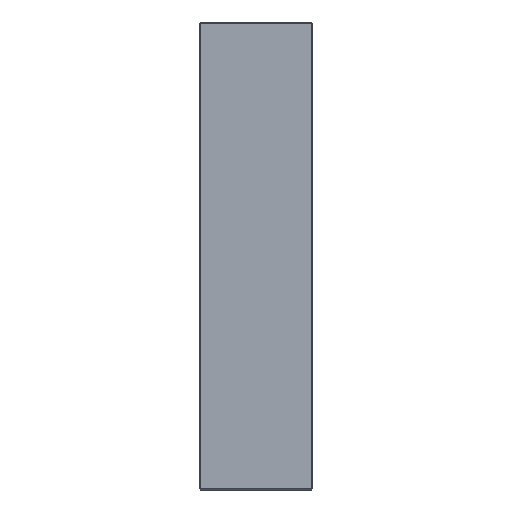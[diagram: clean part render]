
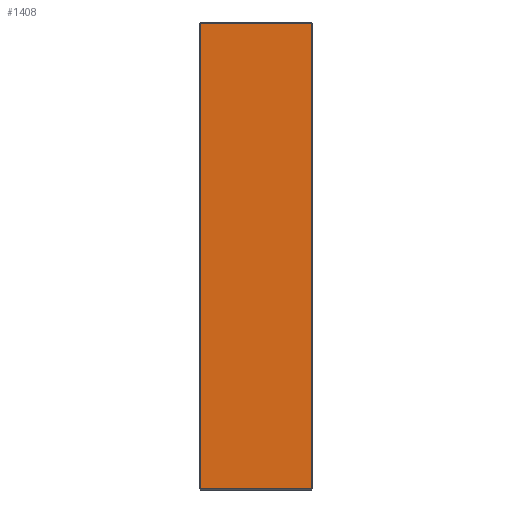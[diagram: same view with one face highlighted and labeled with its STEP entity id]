
A CAD part, left-side view. The second image highlights one B-rep face of the part: STEP entity #1408.
In plain terms, the highlighted planar face has unit normal (-1, 0, 0).
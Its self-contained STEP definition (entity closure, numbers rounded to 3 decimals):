
#28 = VERTEX_POINT ( 'NONE', #657 ) ;
#44 = DIRECTION ( 'NONE',  ( 1., 0., 0. ) ) ;
#54 = DIRECTION ( 'NONE',  ( 0., 0., -1. ) ) ;
#62 = VECTOR ( 'NONE', #1127, 1000. ) ;
#67 = ORIENTED_EDGE ( 'NONE', *, *, #849, .T. ) ;
#98 = VERTEX_POINT ( 'NONE', #1255 ) ;
#218 = LINE ( 'NONE', #1356, #62 ) ;
#340 = CARTESIAN_POINT ( 'NONE',  ( -198., 96., 197. ) ) ;
#364 = FACE_OUTER_BOUND ( 'NONE', #456, .T. ) ;
#456 = EDGE_LOOP ( 'NONE', ( #1675, #1590, #67, #1523 ) ) ;
#482 = VECTOR ( 'NONE', #1559, 1000. ) ;
#657 = CARTESIAN_POINT ( 'NONE',  ( -198., 95., 197. ) ) ;
#697 = AXIS2_PLACEMENT_3D ( 'NONE', #1895, #44, #54 ) ;
#701 = EDGE_CURVE ( 'NONE', #1405, #28, #769, .T. ) ;
#714 = LINE ( 'NONE', #1043, #1785 ) ;
#754 = VERTEX_POINT ( 'NONE', #1233 ) ;
#769 = LINE ( 'NONE', #340, #482 ) ;
#795 = EDGE_CURVE ( 'NONE', #28, #98, #1257, .T. ) ;
#808 = DIRECTION ( 'NONE',  ( 0., 0., -1. ) ) ;
#849 = EDGE_CURVE ( 'NONE', #98, #754, #714, .T. ) ;
#943 = VECTOR ( 'NONE', #808, 1000. ) ;
#992 = EDGE_CURVE ( 'NONE', #754, #1405, #218, .T. ) ;
#1043 = CARTESIAN_POINT ( 'NONE',  ( -198., 96., -197. ) ) ;
#1127 = DIRECTION ( 'NONE',  ( 0., 0., 1. ) ) ;
#1233 = CARTESIAN_POINT ( 'NONE',  ( -198., 1., -197. ) ) ;
#1255 = CARTESIAN_POINT ( 'NONE',  ( -198., 95., -197. ) ) ;
#1257 = LINE ( 'NONE', #1503, #943 ) ;
#1356 = CARTESIAN_POINT ( 'NONE',  ( -198., 1., 198. ) ) ;
#1405 = VERTEX_POINT ( 'NONE', #1860 ) ;
#1408 = ADVANCED_FACE ( 'NONE', ( #364 ), #1717, .F. ) ;
#1503 = CARTESIAN_POINT ( 'NONE',  ( -198., 95., 198. ) ) ;
#1520 = DIRECTION ( 'NONE',  ( 0., -1., 0. ) ) ;
#1523 = ORIENTED_EDGE ( 'NONE', *, *, #992, .T. ) ;
#1559 = DIRECTION ( 'NONE',  ( 0., 1., 0. ) ) ;
#1590 = ORIENTED_EDGE ( 'NONE', *, *, #795, .T. ) ;
#1675 = ORIENTED_EDGE ( 'NONE', *, *, #701, .T. ) ;
#1717 = PLANE ( 'NONE',  #697 ) ;
#1785 = VECTOR ( 'NONE', #1520, 1000. ) ;
#1860 = CARTESIAN_POINT ( 'NONE',  ( -198., 1., 197. ) ) ;
#1895 = CARTESIAN_POINT ( 'NONE',  ( -198., 96., 198. ) ) ;
